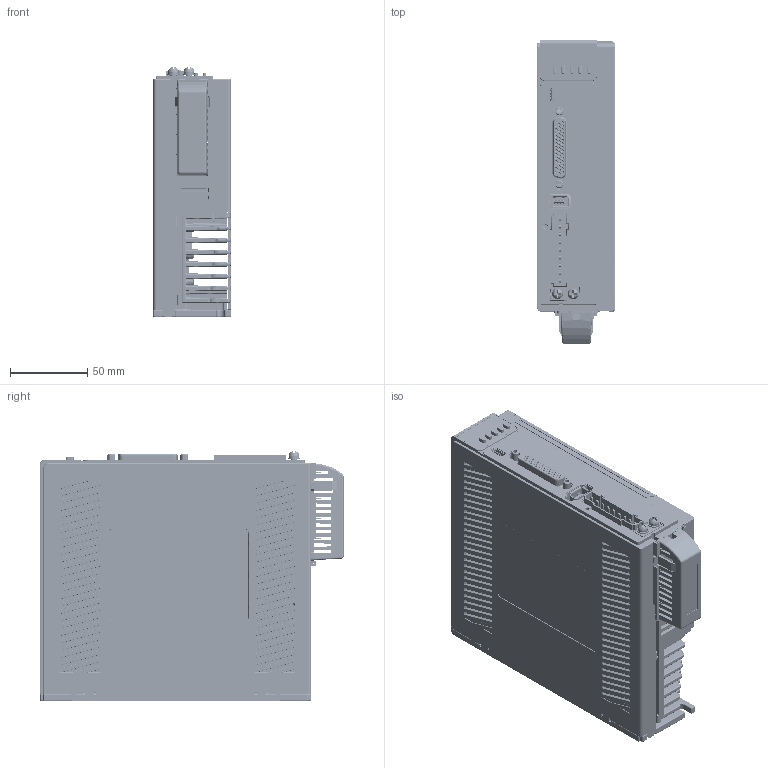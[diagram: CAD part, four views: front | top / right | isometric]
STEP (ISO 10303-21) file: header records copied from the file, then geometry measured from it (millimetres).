
FILE_DESCRIPTION((''),'2;1');
FILE_NAME('ASM0001_L7P_ASM_27_ASM_ASM','2022-08-17T',('Administrator'),(''),'PRO/ENGINEER BY PARAMETRIC TECHNOLOGY CORPORATION, 2010280','PRO/ENGINEER BY PARAMETRIC TECHNOLOGY CORPORATION, 2010280','');
FILE_SCHEMA(('CONFIG_CONTROL_DESIGN'));
Products named in the file (26): M3X8_GB818_9_1_1; D3_GB9074_26_11_1_1; D3_GB9074_24_14_1_1; M3X8_GB9074_4_ASM_1_ASM_1_ASM_ASM; M4X10_GB818_1_1_1; D4_GB9074_26_1_1_1; D4_GB9074_24_1_1_1; M4X10_GB9074_4_ASM_1_ASM_1_ASM_ASM; DB_L7_750_2_1; PCB_L8L_2; 9P___1_1; JDDZ____1_1; PCB_SMALL_L7__1; FUS606_REF_1; C-2-5748482-5-A-3D_1_1; C-5788516-1-A-3D_Z_1; C-1932389-1-3-3D__1; PCB_L8L_ASM_7_ASM_ASM; YKL_1; AJ_190117_____1_3; GZ_L7P_400_14; QWA_3_2; AWQ1_2_1; ASS_ASM_2_ASM_3_ASM_ASM; L7P-750-GZ_8; ASM0001_L7P_ASM_27_ASM_ASM
Assembly tree (28 placements, depth 3):
  ASM0001_L7P_ASM_27_ASM_ASM
    M3X8_GB9074_4_ASM_1_ASM_1_ASM_ASM  x3
      M3X8_GB818_9_1_1
      D3_GB9074_26_11_1_1
      D3_GB9074_24_14_1_1
    M4X10_GB9074_4_ASM_1_ASM_1_ASM_ASM  x2
      M4X10_GB818_1_1_1
      D4_GB9074_26_1_1_1
      D4_GB9074_24_1_1_1
    DB_L7_750_2_1
    PCB_L8L_ASM_7_ASM_ASM
      PCB_L8L_2
      9P___1_1
      JDDZ____1_1
      PCB_SMALL_L7__1
      FUS606_REF_1
      C-2-5748482-5-A-3D_1_1
      C-5788516-1-A-3D_Z_1
      C-1932389-1-3-3D__1
    YKL_1
    AJ_190117_____1_3
    GZ_L7P_400_14
    ASS_ASM_2_ASM_3_ASM_ASM
      QWA_3_2
      AWQ1_2_1
    L7P-750-GZ_8
Bounding box: 50 x 196 x 161.49 mm (x, y, z)
Volume: 541385 mm3; surface area: 462215.8 mm2
Topology: 30 solids, 30 shells, 10439 faces, 27321 edges, 16765 vertices
Faces by surface type: plane 5554, cylinder 3330, bspline 627, sphere 332, torus 323, cone 205, extrusion 60, revolution 8
Entity records: 342490 total; most frequent: CARTESIAN_POINT 95936, ORIENTED_EDGE 53246, DIRECTION 47228, EDGE_CURVE 26623, VECTOR 18806, LINE 18746, VERTEX_POINT 16519, AXIS2_PLACEMENT_3D 14207
